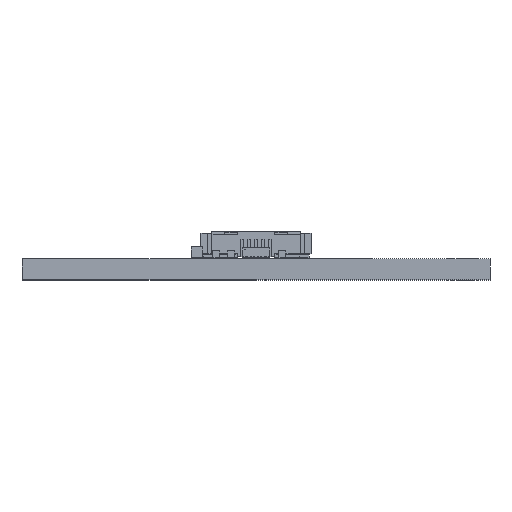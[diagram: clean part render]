
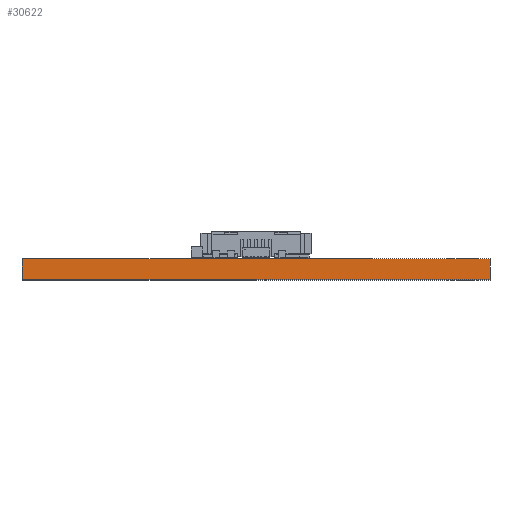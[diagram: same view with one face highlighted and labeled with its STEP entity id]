
A CAD part, front view. The second image highlights one B-rep face of the part: STEP entity #30622.
In plain terms, the highlighted planar face has unit normal (0, -1, 0).
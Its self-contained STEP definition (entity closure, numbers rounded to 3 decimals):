
#30622 = ADVANCED_FACE('',(#30623),#30657,.T.);
#30623 = FACE_BOUND('',#30624,.T.);
#30624 = EDGE_LOOP('',(#30625,#30635,#30643,#30651));
#30625 = ORIENTED_EDGE('',*,*,#30626,.T.);
#30626 = EDGE_CURVE('',#30627,#30629,#30631,.T.);
#30627 = VERTEX_POINT('',#30628);
#30628 = CARTESIAN_POINT('',(17.,-22.5,0.));
#30629 = VERTEX_POINT('',#30630);
#30630 = CARTESIAN_POINT('',(17.,-22.5,1.51));
#30631 = LINE('',#30632,#30633);
#30632 = CARTESIAN_POINT('',(17.,-22.5,0.));
#30633 = VECTOR('',#30634,1.);
#30634 = DIRECTION('',(0.,0.,1.));
#30635 = ORIENTED_EDGE('',*,*,#30636,.T.);
#30636 = EDGE_CURVE('',#30629,#30637,#30639,.T.);
#30637 = VERTEX_POINT('',#30638);
#30638 = CARTESIAN_POINT('',(-17.,-22.5,1.51));
#30639 = LINE('',#30640,#30641);
#30640 = CARTESIAN_POINT('',(17.,-22.5,1.51));
#30641 = VECTOR('',#30642,1.);
#30642 = DIRECTION('',(-1.,0.,0.));
#30643 = ORIENTED_EDGE('',*,*,#30644,.F.);
#30644 = EDGE_CURVE('',#30645,#30637,#30647,.T.);
#30645 = VERTEX_POINT('',#30646);
#30646 = CARTESIAN_POINT('',(-17.,-22.5,0.));
#30647 = LINE('',#30648,#30649);
#30648 = CARTESIAN_POINT('',(-17.,-22.5,0.));
#30649 = VECTOR('',#30650,1.);
#30650 = DIRECTION('',(0.,0.,1.));
#30651 = ORIENTED_EDGE('',*,*,#30652,.F.);
#30652 = EDGE_CURVE('',#30627,#30645,#30653,.T.);
#30653 = LINE('',#30654,#30655);
#30654 = CARTESIAN_POINT('',(17.,-22.5,0.));
#30655 = VECTOR('',#30656,1.);
#30656 = DIRECTION('',(-1.,0.,0.));
#30657 = PLANE('',#30658);
#30658 = AXIS2_PLACEMENT_3D('',#30659,#30660,#30661);
#30659 = CARTESIAN_POINT('',(17.,-22.5,0.));
#30660 = DIRECTION('',(0.,-1.,0.));
#30661 = DIRECTION('',(-1.,0.,0.));
